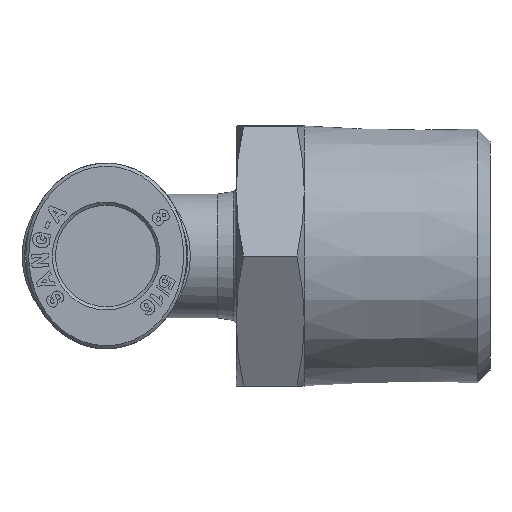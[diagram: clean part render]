
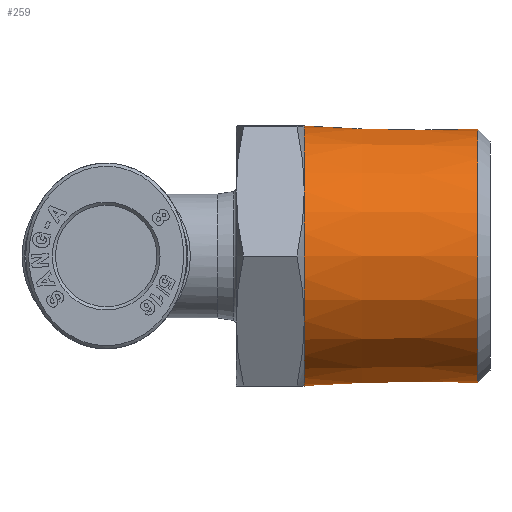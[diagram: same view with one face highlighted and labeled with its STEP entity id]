
A CAD part, front view. The second image highlights one B-rep face of the part: STEP entity #259.
In plain terms, the highlighted conical face has half-angle 1.06 degrees and reference radius 10.361 mm.
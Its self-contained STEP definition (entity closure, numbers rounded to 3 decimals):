
#180=CARTESIAN_POINT('',(21.,10.241,0.));
#181=VERTEX_POINT('',#180);
#182=CARTESIAN_POINT('',(21.,0.0,0.));
#183=DIRECTION('',(1.0,0.0,0.0));
#184=DIRECTION('',(0.0,-1.0,0.0));
#185=AXIS2_PLACEMENT_3D('',#182,#183,#184);
#186=CIRCLE('',#185,10.241);
#187=EDGE_CURVE('',#181,#181,#186,.T.);
#195=CARTESIAN_POINT('',(14.5,0.0,0.0));
#196=DIRECTION('',(-1.0,0.0,0.0));
#197=DIRECTION('',(0.0,1.0,0.0));
#198=AXIS2_PLACEMENT_3D('',#195,#196,#197);
#199=CONICAL_SURFACE('',#198,10.361,1.06);
#200=CARTESIAN_POINT('',(7.,9.093,-5.25));
#201=VERTEX_POINT('',#200);
#202=CARTESIAN_POINT('',(7.,9.093,5.25));
#203=VERTEX_POINT('',#202);
#204=CARTESIAN_POINT('',(7.,0.0,0.0));
#205=DIRECTION('',(1.0,0.0,0.0));
#206=DIRECTION('',(0.0,1.0,0.0));
#207=AXIS2_PLACEMENT_3D('',#204,#205,#206);
#208=CIRCLE('',#207,10.5);
#209=EDGE_CURVE('',#201,#203,#208,.T.);
#210=ORIENTED_EDGE('',*,*,#209,.T.);
#211=CARTESIAN_POINT('',(7.,0.,10.5));
#212=VERTEX_POINT('',#211);
#213=CARTESIAN_POINT('',(7.,0.0,0.0));
#214=DIRECTION('',(1.0,0.0,0.0));
#215=DIRECTION('',(0.0,1.0,0.0));
#216=AXIS2_PLACEMENT_3D('',#213,#214,#215);
#217=CIRCLE('',#216,10.5);
#218=EDGE_CURVE('',#203,#212,#217,.T.);
#219=ORIENTED_EDGE('',*,*,#218,.T.);
#220=CARTESIAN_POINT('',(7.,-9.093,5.25));
#221=VERTEX_POINT('',#220);
#222=CARTESIAN_POINT('',(7.,0.0,0.0));
#223=DIRECTION('',(1.0,0.0,0.0));
#224=DIRECTION('',(0.0,1.0,0.0));
#225=AXIS2_PLACEMENT_3D('',#222,#223,#224);
#226=CIRCLE('',#225,10.5);
#227=EDGE_CURVE('',#212,#221,#226,.T.);
#228=ORIENTED_EDGE('',*,*,#227,.T.);
#229=CARTESIAN_POINT('',(7.,-9.093,-5.25));
#230=VERTEX_POINT('',#229);
#231=CARTESIAN_POINT('',(7.,0.0,0.0));
#232=DIRECTION('',(1.0,0.0,0.0));
#233=DIRECTION('',(0.0,1.0,0.0));
#234=AXIS2_PLACEMENT_3D('',#231,#232,#233);
#235=CIRCLE('',#234,10.5);
#236=EDGE_CURVE('',#221,#230,#235,.T.);
#237=ORIENTED_EDGE('',*,*,#236,.T.);
#238=CARTESIAN_POINT('',(7.,0.0,-10.5));
#239=VERTEX_POINT('',#238);
#240=CARTESIAN_POINT('',(7.,0.0,0.0));
#241=DIRECTION('',(1.0,0.0,0.0));
#242=DIRECTION('',(0.0,1.0,0.0));
#243=AXIS2_PLACEMENT_3D('',#240,#241,#242);
#244=CIRCLE('',#243,10.5);
#245=EDGE_CURVE('',#230,#239,#244,.T.);
#246=ORIENTED_EDGE('',*,*,#245,.T.);
#247=CARTESIAN_POINT('',(7.,0.0,0.0));
#248=DIRECTION('',(1.0,0.0,0.0));
#249=DIRECTION('',(0.0,1.0,0.0));
#250=AXIS2_PLACEMENT_3D('',#247,#248,#249);
#251=CIRCLE('',#250,10.5);
#252=EDGE_CURVE('',#239,#201,#251,.T.);
#253=ORIENTED_EDGE('',*,*,#252,.T.);
#254=EDGE_LOOP('',(#210,#219,#228,#237,#246,#253));
#255=FACE_OUTER_BOUND('',#254,.T.);
#256=ORIENTED_EDGE('',*,*,#187,.F.);
#257=EDGE_LOOP('',(#256));
#258=FACE_BOUND('',#257,.T.);
#259=ADVANCED_FACE('',(#255,#258),#199,.T.);
